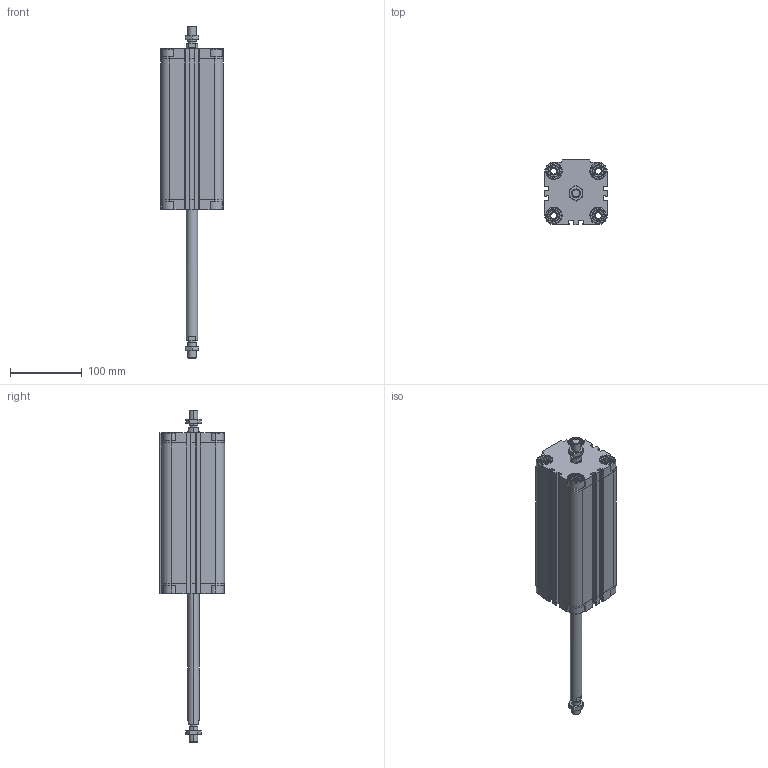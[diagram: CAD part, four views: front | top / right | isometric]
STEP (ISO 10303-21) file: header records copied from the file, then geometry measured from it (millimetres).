
FILE_DESCRIPTION (( 'STEP AP203' ), '1' );
FILE_NAME ('CDVU63-175M-P.STEP', '2020-07-21T15:23:15', ( '' ), ( '' ), 'SwSTEP 2.0', 'SolidWorks 2019', '' );
FILE_SCHEMA (( 'CONFIG_CONTROL_DESIGN' ));
Length unit declared in the file: millimetre
Products named in the file (1): CDVU63-175M-P
Bounding box: 87 x 91 x 463 mm (x, y, z)
Volume: 1038028.5 mm3; surface area: 231447.9 mm2
Topology: 4 solids, 4 shells, 658 faces, 1744 edges, 1138 vertices
Faces by surface type: plane 386, cylinder 192, cone 80
Entity records: 21255 total; most frequent: CARTESIAN_POINT 4809, ORIENTED_EDGE 3480, DIRECTION 3322, EDGE_CURVE 1740, AXIS2_PLACEMENT_3D 1139, VERTEX_POINT 1138, VECTOR 1044, LINE 1044
